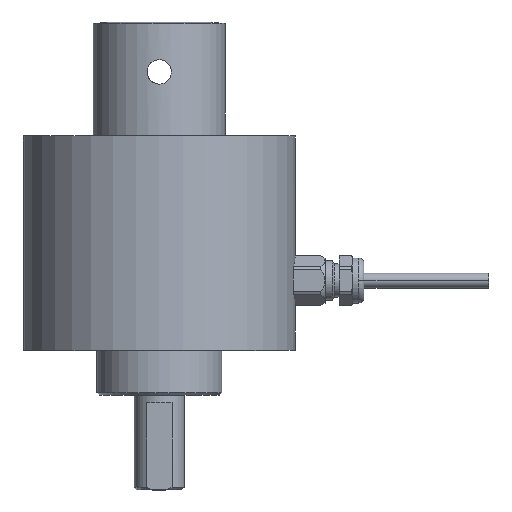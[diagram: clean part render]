
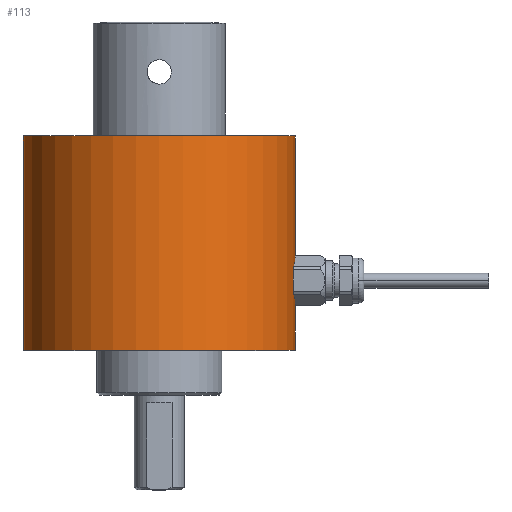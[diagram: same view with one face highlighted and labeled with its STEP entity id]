
A CAD part, top view. The second image highlights one B-rep face of the part: STEP entity #113.
In plain terms, the highlighted cylindrical face has radius 27.25 mm (diameter 54.5 mm), a partial arc.
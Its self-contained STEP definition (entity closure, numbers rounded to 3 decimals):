
#113=ADVANCED_FACE('',(#385),#386,.T.);
#385=FACE_OUTER_BOUND('',#920,.T.);
#386=CYLINDRICAL_SURFACE('',#921,27.25);
#920=EDGE_LOOP('',(#1687,#1688,#1689,#1690,#1691,#1692,#1693,#1694,#1695,#1696,#1697,#1698));
#921=AXIS2_PLACEMENT_3D('',#1699,#1700,#1701);
#1687=ORIENTED_EDGE('',*,*,#3424,.F.);
#1688=ORIENTED_EDGE('',*,*,#3425,.T.);
#1689=ORIENTED_EDGE('',*,*,#3426,.F.);
#1690=ORIENTED_EDGE('',*,*,#3427,.T.);
#1691=ORIENTED_EDGE('',*,*,#3428,.F.);
#1692=ORIENTED_EDGE('',*,*,#3429,.F.);
#1693=ORIENTED_EDGE('',*,*,#3430,.F.);
#1694=ORIENTED_EDGE('',*,*,#3431,.F.);
#1695=ORIENTED_EDGE('',*,*,#3432,.F.);
#1696=ORIENTED_EDGE('',*,*,#3433,.F.);
#1697=ORIENTED_EDGE('',*,*,#3434,.F.);
#1698=ORIENTED_EDGE('',*,*,#3435,.F.);
#1699=CARTESIAN_POINT('',(0.0,8.0,0.0));
#1700=DIRECTION('',(0.0,-1.0,0.0));
#1701=DIRECTION('',(1.0,0.0,0.0));
#3424=EDGE_CURVE('',#4176,#3840,#4177,.T.);
#3425=EDGE_CURVE('',#4176,#4178,#4179,.T.);
#3426=EDGE_CURVE('',#4180,#4178,#4181,.T.);
#3427=EDGE_CURVE('',#4180,#4182,#4183,.T.);
#3428=EDGE_CURVE('',#4119,#4182,#4184,.T.);
#3429=EDGE_CURVE('',#4185,#4119,#4186,.T.);
#3430=EDGE_CURVE('',#4187,#4185,#4188,.T.);
#3431=EDGE_CURVE('',#4189,#4187,#4190,.T.);
#3432=EDGE_CURVE('',#4191,#4189,#4192,.T.);
#3433=EDGE_CURVE('',#4193,#4191,#4194,.T.);
#3434=EDGE_CURVE('',#4195,#4193,#4196,.T.);
#3435=EDGE_CURVE('',#3840,#4195,#4197,.T.);
#3840=VERTEX_POINT('',#4829);
#4119=VERTEX_POINT('',#5391);
#4176=VERTEX_POINT('',#5483);
#4177=LINE('',#5484,#5485);
#4178=VERTEX_POINT('',#5486);
#4179=CIRCLE('',#5487,27.25);
#4180=VERTEX_POINT('',#5488);
#4181=LINE('',#5489,#5490);
#4182=VERTEX_POINT('',#5491);
#4183=CIRCLE('',#5492,27.25);
#4184=LINE('',#5493,#5494);
#4185=VERTEX_POINT('',#5495);
#4186=B_SPLINE_CURVE_WITH_KNOTS('',3,(#5496,#5497,#5498,#5499,#5500,#5501),.UNSPECIFIED.,.F.,.F.,(4,2,4),(0.719,0.755,0.791),.UNSPECIFIED.);
#4187=VERTEX_POINT('',#5502);
#4188=ELLIPSE('',#5503,31.466,27.25);
#4189=VERTEX_POINT('',#5504);
#4190=B_SPLINE_CURVE_WITH_KNOTS('',3,(#5505,#5506,#5507,#5508),.UNSPECIFIED.,.F.,.F.,(4,4),(0.216,0.285),.UNSPECIFIED.);
#4191=VERTEX_POINT('',#5509);
#4192=LINE('',#5510,#5511);
#4193=VERTEX_POINT('',#5512);
#4194=B_SPLINE_CURVE_WITH_KNOTS('',3,(#5513,#5514,#5515,#5516),.UNSPECIFIED.,.F.,.F.,(4,4),(2.736,2.805),.UNSPECIFIED.);
#4195=VERTEX_POINT('',#5517);
#4196=ELLIPSE('',#5518,31.466,27.25);
#4197=B_SPLINE_CURVE_WITH_KNOTS('',3,(#5519,#5520,#5521,#5522,#5523,#5524),.UNSPECIFIED.,.F.,.F.,(4,2,4),(2.23,2.266,2.302),.UNSPECIFIED.);
#4829=CARTESIAN_POINT('',(27.25,11.0,0.));
#5391=CARTESIAN_POINT('',(27.25,1.,0.));
#5483=CARTESIAN_POINT('',(27.25,35.0,0.));
#5484=CARTESIAN_POINT('',(27.25,8.0,0.));
#5485=VECTOR('',#7200,1.0);
#5486=CARTESIAN_POINT('',(-27.25,35.0,0.));
#5487=AXIS2_PLACEMENT_3D('',#7201,#7202,#7203);
#5488=CARTESIAN_POINT('',(-27.25,-8.,0.));
#5489=CARTESIAN_POINT('',(-27.25,8.0,0.));
#5490=VECTOR('',#7204,1.0);
#5491=CARTESIAN_POINT('',(27.25,-8.,0.));
#5492=AXIS2_PLACEMENT_3D('',#7205,#7206,#7207);
#5493=CARTESIAN_POINT('',(27.25,8.0,0.));
#5494=VECTOR('',#7208,1.0);
#5495=CARTESIAN_POINT('',(27.248,1.013,0.363));
#5496=CARTESIAN_POINT('',(27.248,1.013,0.363));
#5497=CARTESIAN_POINT('',(27.249,1.004,0.241));
#5498=CARTESIAN_POINT('',(27.25,1.,0.12));
#5499=CARTESIAN_POINT('',(27.25,1.,-0.12));
#5500=CARTESIAN_POINT('',(27.249,1.004,-0.241));
#5501=CARTESIAN_POINT('',(27.248,1.013,-0.363));
#5502=CARTESIAN_POINT('',(26.934,3.193,4.137));
#5503=AXIS2_PLACEMENT_3D('',#7209,#7210,#7211);
#5504=CARTESIAN_POINT('',(26.876,3.821,4.5));
#5505=CARTESIAN_POINT('',(26.876,3.821,4.5));
#5506=CARTESIAN_POINT('',(26.894,3.602,4.394));
#5507=CARTESIAN_POINT('',(26.913,3.391,4.272));
#5508=CARTESIAN_POINT('',(26.934,3.193,4.137));
#5509=CARTESIAN_POINT('',(26.876,8.179,4.5));
#5510=CARTESIAN_POINT('',(26.876,8.179,4.5));
#5511=VECTOR('',#7212,4.359);
#5512=CARTESIAN_POINT('',(26.934,8.807,4.137));
#5513=CARTESIAN_POINT('',(26.934,8.807,4.137));
#5514=CARTESIAN_POINT('',(26.913,8.609,4.272));
#5515=CARTESIAN_POINT('',(26.894,8.398,4.394));
#5516=CARTESIAN_POINT('',(26.876,8.179,4.5));
#5517=CARTESIAN_POINT('',(27.248,10.987,0.363));
#5518=AXIS2_PLACEMENT_3D('',#7213,#7214,#7215);
#5519=CARTESIAN_POINT('',(27.248,10.987,-0.363));
#5520=CARTESIAN_POINT('',(27.249,10.996,-0.241));
#5521=CARTESIAN_POINT('',(27.25,11.0,-0.12));
#5522=CARTESIAN_POINT('',(27.25,11.0,0.12));
#5523=CARTESIAN_POINT('',(27.249,10.996,0.241));
#5524=CARTESIAN_POINT('',(27.248,10.987,0.363));
#7200=DIRECTION('',(0.0,-1.0,0.0));
#7201=CARTESIAN_POINT('',(0.,35.0,0.));
#7202=DIRECTION('',(0.0,-1.0,0.0));
#7203=DIRECTION('',(1.0,0.0,0.0));
#7204=DIRECTION('',(0.0,1.0,0.0));
#7205=CARTESIAN_POINT('',(0.,-8.,0.));
#7206=DIRECTION('',(0.0,1.0,0.0));
#7207=DIRECTION('',(-1.0,0.0,0.0));
#7208=DIRECTION('',(0.0,-1.0,0.0));
#7209=CARTESIAN_POINT('',(0.0,0.804,0.0));
#7210=DIRECTION('',(0.0,0.866,-0.5));
#7211=DIRECTION('',(0.0,0.5,0.866));
#7212=DIRECTION('',(0.0,-1.0,0.0));
#7213=CARTESIAN_POINT('',(0.0,11.196,0.0));
#7214=DIRECTION('',(0.0,-0.866,-0.5));
#7215=DIRECTION('',(0.0,-0.5,0.866));
